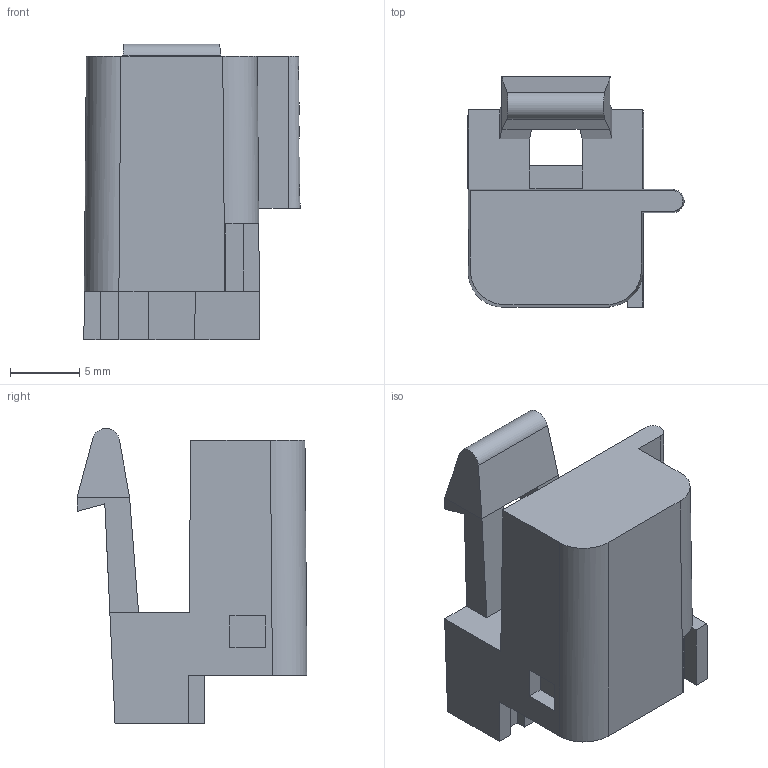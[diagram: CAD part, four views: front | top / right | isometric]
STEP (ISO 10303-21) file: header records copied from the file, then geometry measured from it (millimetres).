
FILE_DESCRIPTION(/* description */ (''),/* implementation_level */ '2;1');
FILE_NAME(/* name */ '12064760-ENV1109.stp',/* time_stamp */ '2019-07-24T15:11:05+06:00',/* author */ (''),/* organization */ (''),/* preprocessor_version */ 'ST-DEVELOPER v16',/* originating_system */ 'SIEMENS PLM Software NX 11.0',/* authorisation */ '');
FILE_SCHEMA (('AUTOMOTIVE_DESIGN { 1 0 10303 214 3 1 1 1 }'));
Length unit declared in the file: millimetre
Products named in the file (1): 12064760-ENV11_09-CONN
Bounding box: 15.63 x 16.63 x 21.35 mm (x, y, z)
Volume: 2386 mm3; surface area: 1627.8 mm2
Topology: 1 solids, 1 shells, 56 faces, 157 edges, 103 vertices
Faces by surface type: plane 52, cylinder 3, cone 1
Entity records: 1800 total; most frequent: CARTESIAN_POINT 317, ORIENTED_EDGE 314, DIRECTION 282, EDGE_CURVE 157, LINE 146, VECTOR 146, VERTEX_POINT 103, AXIS2_PLACEMENT_3D 68
